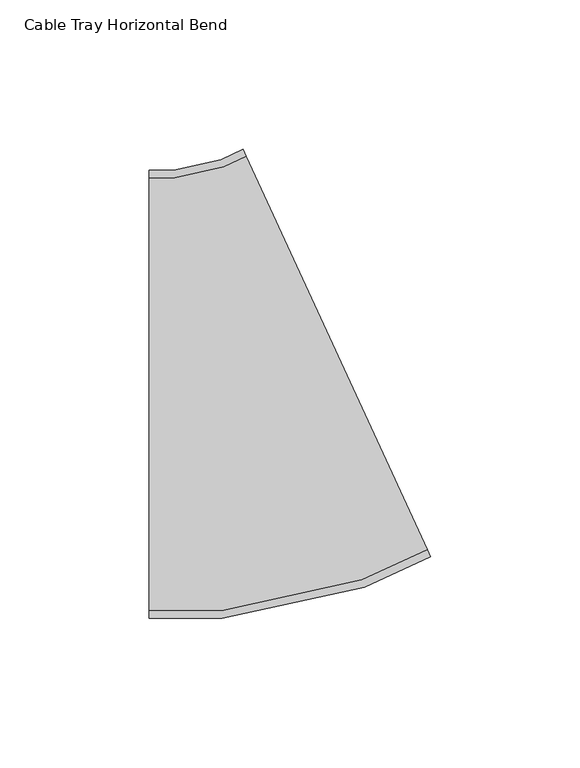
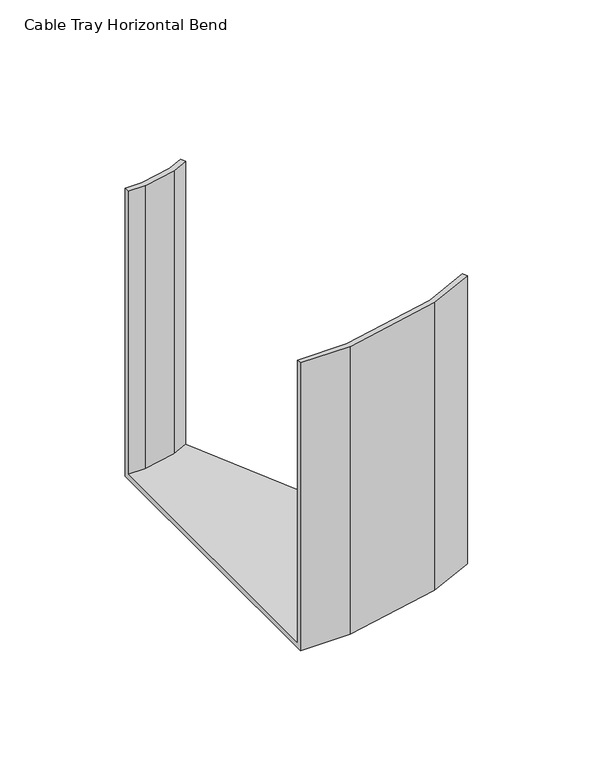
"""IFC4 building model written with IfcOpenShell, lengths in millimetres: cable carrier fitting geometry, Cable Tray Horizontal Bend : ELEC_ELV_TKG_N2402."""

import ifcopenshell
import ifcopenshell.guid

model = None  # the IFC model being written
_history = None  # IfcOwnerHistory: only IFC2X3 demands one
_inside = {}  # id of a spatial element -> (the spatial element, [elements in it])
_under = {}  # id of a project, library or spatial element -> (it, [spatial elements below it])
_declared = {}  # id of a project -> (the project, [libraries it declares])
_typed = {}  # id of a type object -> (the type object, [elements of that type])
_made_of = {}  # id of a material, layer set ... -> (it, [elements and type objects made of it])


def new_model(schema):
    """Start an empty IFC model of exactly this schema.

    Asked for "IFC4X3", IfcOpenShell would pick the latest addendum, in which some entities
    have other attributes; the version numbers below select the first issue.
    IFC2X3 requires an IfcOwnerHistory on every rooted entity: one is made here for all.
    """
    global model, _history
    if schema == "IFC4X3":
        model = ifcopenshell.file(schema_version=(4, 3, 0, 0))
    else:
        model = ifcopenshell.file(schema=schema)
    _inside.clear()
    _under.clear()
    _declared.clear()
    _typed.clear()
    _made_of.clear()
    _history = None
    if model.schema == "IFC2X3":
        org = make("IfcOrganization", Name="unknown")
        user = make(
            "IfcPersonAndOrganization",
            ThePerson=make("IfcPerson", FamilyName="unknown"),
            TheOrganization=org,
        )
        app = make(
            "IfcApplication",
            ApplicationDeveloper=org,
            Version="unknown",
            ApplicationFullName="unknown",
            ApplicationIdentifier="unknown",
        )
        _history = make(
            "IfcOwnerHistory",
            OwningUser=user,
            OwningApplication=app,
            ChangeAction="ADDED",
            CreationDate=0,
        )
    return model


def make(cls, **values):
    """One entity of the class cls with the attributes given. An attribute that is None is left unset."""
    return model.create_entity(
        cls, **{name: value for name, value in values.items() if value is not None}
    )


def rooted(cls, **values):
    """An entity with a GlobalId (a new one), such as an element, a storey or a relation."""
    return make(cls, GlobalId=ifcopenshell.guid.new(), OwnerHistory=_history, **values)


def si_unit(unit_type, name, prefix=None):
    """IfcSIUnit, for example si_unit("LENGTHUNIT", "METRE", prefix="MILLI")."""
    return make("IfcSIUnit", UnitType=unit_type, Prefix=prefix, Name=name)


def assignment(units):
    """IfcUnitAssignment: the units of a project."""
    return None if units is None else make("IfcUnitAssignment", Units=units)


def point(xyz):
    """IfcCartesianPoint."""
    return None if xyz is None else make("IfcCartesianPoint", Coordinates=xyz)


def direction(xyz):
    """IfcDirection."""
    return None if xyz is None else make("IfcDirection", DirectionRatios=xyz)


def frame(location, z_axis=None, x_axis=None):
    """IfcAxis2Placement3D, a coordinate frame: its origin and axes. An axis left out is left unset."""
    return make(
        "IfcAxis2Placement3D",
        Location=point(location),
        Axis=direction(z_axis),
        RefDirection=direction(x_axis),
    )


def origin():
    """The frame at (0, 0, 0) with its axes left unset."""
    return frame((0.0, 0.0, 0.0))


def place(relative_to, where):
    """IfcLocalPlacement: puts the frame where relative to a parent placement (None: the world)."""
    return make(
        "IfcLocalPlacement", PlacementRelTo=relative_to, RelativePlacement=where
    )


def context(
    kind, dimensions, precision=None, world=None, true_north=None, identifier=None
):
    """IfcGeometricRepresentationContext, for example the 3D "Model" context."""
    return make(
        "IfcGeometricRepresentationContext",
        ContextIdentifier=identifier,
        ContextType=kind,
        CoordinateSpaceDimension=dimensions,
        Precision=precision,
        WorldCoordinateSystem=world,
        TrueNorth=true_north,
    )


def project(units=None, contexts=None):
    """IfcProject with its units and contexts."""
    return rooted(
        "IfcProject",
        Name="project",
        RepresentationContexts=contexts,
        UnitsInContext=assignment(units),
    )


def spatial(cls, under=None, at=None, **own):
    """A site, building, storey or space (cls), placed at a placement, below another one or the project."""
    s = rooted(cls, ObjectPlacement=at, **own)
    if under is not None:
        _under.setdefault(under.id(), (under, []))[1].append(s)
    return s


def faces_of(points, faces, orient=None, outer=None):
    """IfcFace entities. A face is a list of loops; a loop is a list of indices into points, from 0.

    orient and outer hold one flag for each loop. By default every Orientation is true, the
    first loop of a face is its IfcFaceOuterBound and the others are IfcFaceBound.
    """
    made = []
    for i, loops in enumerate(faces):
        bounds = []
        for j, loop in enumerate(loops):
            is_outer = j == 0 if outer is None else outer[i][j]
            bounds.append(
                make(
                    "IfcFaceOuterBound" if is_outer else "IfcFaceBound",
                    Bound=make("IfcPolyLoop", Polygon=[points[k] for k in loop]),
                    Orientation=True if orient is None else orient[i][j],
                )
            )
        made.append(make("IfcFace", Bounds=bounds))
    return made


def faceted_brep(points, faces, orient=None, outer=None, voids=None):
    """IfcFacetedBrep: a solid bounded by flat faces; with voids (closed shells), ...WithVoids."""
    shared = [point(p) for p in points]
    hull = make("IfcClosedShell", CfsFaces=faces_of(shared, faces, orient, outer))
    if voids is None:
        return make("IfcFacetedBrep", Outer=hull)
    return make(
        "IfcFacetedBrepWithVoids",
        Outer=hull,
        Voids=[
            make(cls, CfsFaces=faces_of(shared, fs, o, b)) for cls, fs, o, b in voids
        ],
    )


def shape(context_of_items, identifier, shape_type, items):
    """IfcShapeRepresentation: the items that make up one representation, for example the "Body"."""
    return make(
        "IfcShapeRepresentation",
        ContextOfItems=context_of_items,
        RepresentationIdentifier=identifier,
        RepresentationType=shape_type,
        Items=items,
    )


def source(mapping_origin, context_of_items, identifier, shape_type, items):
    """IfcRepresentationMap: a shape defined once, which mapped items show again and again."""
    return make(
        "IfcRepresentationMap",
        MappingOrigin=mapping_origin,
        MappedRepresentation=shape(context_of_items, identifier, shape_type, items),
    )


def transform(
    local_origin,
    x_axis=None,
    y_axis=None,
    z_axis=None,
    scale=None,
    scale2=None,
    scale3=None,
    uniform=True,
):
    """IfcCartesianTransformationOperator3D, or its non-uniform kind. x_axis, y_axis, z_axis: its Axis1, 2, 3."""
    if uniform:
        return make(
            "IfcCartesianTransformationOperator3D",
            Axis1=direction(x_axis),
            Axis2=direction(y_axis),
            LocalOrigin=point(local_origin),
            Scale=scale,
            Axis3=direction(z_axis),
        )
    return make(
        "IfcCartesianTransformationOperator3DnonUniform",
        Axis1=direction(x_axis),
        Axis2=direction(y_axis),
        LocalOrigin=point(local_origin),
        Scale=scale,
        Axis3=direction(z_axis),
        Scale2=scale2,
        Scale3=scale3,
    )


def mapped(mapping_source, mapping_target):
    """IfcMappedItem: shows the shape of a source again, moved by a transform."""
    return make(
        "IfcMappedItem", MappingSource=mapping_source, MappingTarget=mapping_target
    )


def made_of(thing, what):
    """Note that an element or type object is made of a material, layer set ...; save() writes the relation."""
    if what is not None:
        _made_of.setdefault(what.id(), (what, []))[1].append(thing)
    return thing


def element(
    cls,
    number,
    at=None,
    inside=None,
    cuts=None,
    type_object=None,
    material=None,
    context=None,
    identifier="Body",
    shape_type=None,
    held_by="IfcProductDefinitionShape",
    body=None,
    shapes=None,
    **own,
):
    """One element of the class cls, such as IfcWall. Its Tag is "e" and its number.

    at: its placement. inside: the storey or other place that contains it. cuts: it is an
    opening in that element (IfcRelVoidsElement). A single representation is given by context,
    identifier, shape_type and body (its items); several are given by shapes. held_by: the class
    of the entity that holds the representations. save() writes the other relations.
    """
    e = rooted(cls, Tag="e%d" % number, ObjectPlacement=at, **own)
    if body is not None:
        shapes = [shape(context, identifier, shape_type, body)]
    if shapes is not None:
        e.Representation = make(held_by, Representations=shapes)
    if inside is not None:
        _inside.setdefault(inside.id(), (inside, []))[1].append(e)
    if cuts is not None:
        rooted(
            "IfcRelVoidsElement", RelatingBuildingElement=cuts, RelatedOpeningElement=e
        )
    if type_object is not None:
        _typed.setdefault(type_object.id(), (type_object, []))[1].append(e)
    return made_of(e, material)


def aggregate(whole, parts):
    """IfcRelAggregates: a whole, such as a stair, and the parts it consists of."""
    return rooted("IfcRelAggregates", RelatingObject=whole, RelatedObjects=parts)


def save(model, path):
    """Write the relations noted so far, then the file.

    IfcRelAggregates (storeys below a building ...), IfcRelContainedInSpatialStructure (elements
    in a storey), IfcRelDefinesByType, IfcRelAssociatesMaterial and IfcRelDeclares: one each for
    every whole, place, type object, material and project.
    """
    for whole, parts in _under.values():
        aggregate(whole, parts)
    for where, things in _inside.values():
        rooted(
            "IfcRelContainedInSpatialStructure",
            RelatedElements=things,
            RelatingStructure=where,
        )
    for kind, things in _typed.values():
        rooted("IfcRelDefinesByType", RelatedObjects=things, RelatingType=kind)
    for what, things in _made_of.values():
        rooted("IfcRelAssociatesMaterial", RelatedObjects=things, RelatingMaterial=what)
    for by, libraries in _declared.values():
        rooted("IfcRelDeclares", RelatingContext=by, RelatedDefinitions=libraries)
    model.write(path)


def cable_tray_horizontal_bend_01508106(model_context):
    return source(origin(), model_context, "Body", "Brep", [
        faceted_brep([(-32.9003639, -75.0, -75.0), (-32.9003639, -75.0, 75.0), (-32.9003639, -72.46, 75.0), (-32.9003639, -72.46, -72.46), (-32.9003639, 72.46, -72.46), (-32.9003639, 72.46, 75.0), (-32.9003639, 75.0, 75.0), (-32.9003639, 75.0, -75.0), (61.2703467, -54.3449957, -75.0), (-1.510127, 81.8850014, -75.0), (-1.510127, 81.8850014, 75.0), (-0.4470443, 79.5781735, 75.0), (-0.4470443, 79.5781735, -72.46), (60.207264, -52.0381678, -72.46), (60.207264, -52.0381678, 75.0), (61.2703467, -54.3449957, 75.0), (-8.5149307, -75.0, -75.0), (-8.5149307, -75.0, 75.0), (39.1234967, -64.5511894, 75.0), (38.3104274, -62.1291448, 75.0), (-8.7902151, -72.46, 75.0), (-8.7902151, -72.46, -72.46), (38.3104274, -62.1291448, -72.46), (-8.079341, 76.0608924, -72.46), (-24.4966017, 72.46, -72.46), (-24.4966017, 72.46, 75.0), (-8.079341, 76.0608924, 75.0), (-8.8924103, 78.4829369, 75.0), (-24.7718861, 75.0, 75.0), (-24.7718861, 75.0, -75.0), (-8.8924103, 78.4829369, -75.0), (39.1234967, -64.5511894, -75.0)], [[[0, 1, 2, 3, 4, 5, 6, 7]], [[8, 9, 10, 11, 12, 13, 14, 15]], [[1, 0, 16, 17]], [[2, 1, 17, 18, 15, 14, 19, 20]], [[3, 2, 20, 21]], [[4, 3, 21, 22, 13, 12, 23, 24]], [[5, 4, 24, 25]], [[6, 5, 25, 26, 11, 10, 27, 28]], [[7, 6, 28, 29]], [[0, 7, 29, 30, 9, 8, 31, 16]], [[17, 16, 31, 18]], [[21, 20, 19, 22]], [[25, 24, 23, 26]], [[29, 28, 27, 30]], [[18, 31, 8, 15]], [[22, 19, 14, 13]], [[26, 23, 12, 11]], [[30, 27, 10, 9]]]),
    ])


if __name__ == "__main__":
    model = new_model("IFC4")
    model_context = context("Model", 3, world=origin())
    ifc_project = project(units=[si_unit("LENGTHUNIT", "METRE", prefix="MILLI")], contexts=[model_context])
    site = spatial("IfcSite", under=ifc_project)
    building = spatial("IfcBuilding", under=site)
    placement = place(None, origin())
    cable_tray_horizontal_bend_shape = cable_tray_horizontal_bend_01508106(model_context)
    element("IfcCableCarrierFitting", 1, ObjectType="Cable Tray Horizontal Bend : ELEC_ELV_TKG_N2402", at=placement, inside=building, context=model_context, shape_type="MappedRepresentation", body=[
        mapped(cable_tray_horizontal_bend_shape, transform((0.0, 0.0, 0.0), x_axis=(1.0, 0.0, 0.0), y_axis=(0.0, 1.0, 0.0), z_axis=(0.0, 0.0, 1.0))),
    ])
    save(model, "model.ifc")
